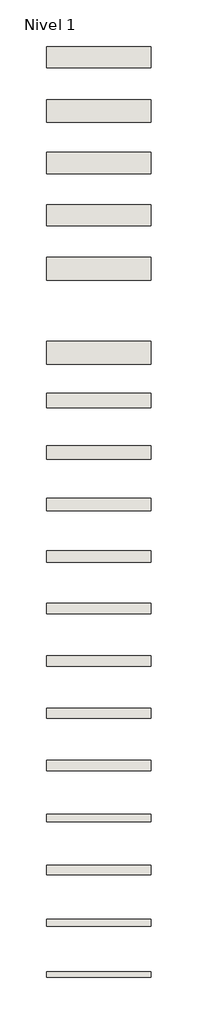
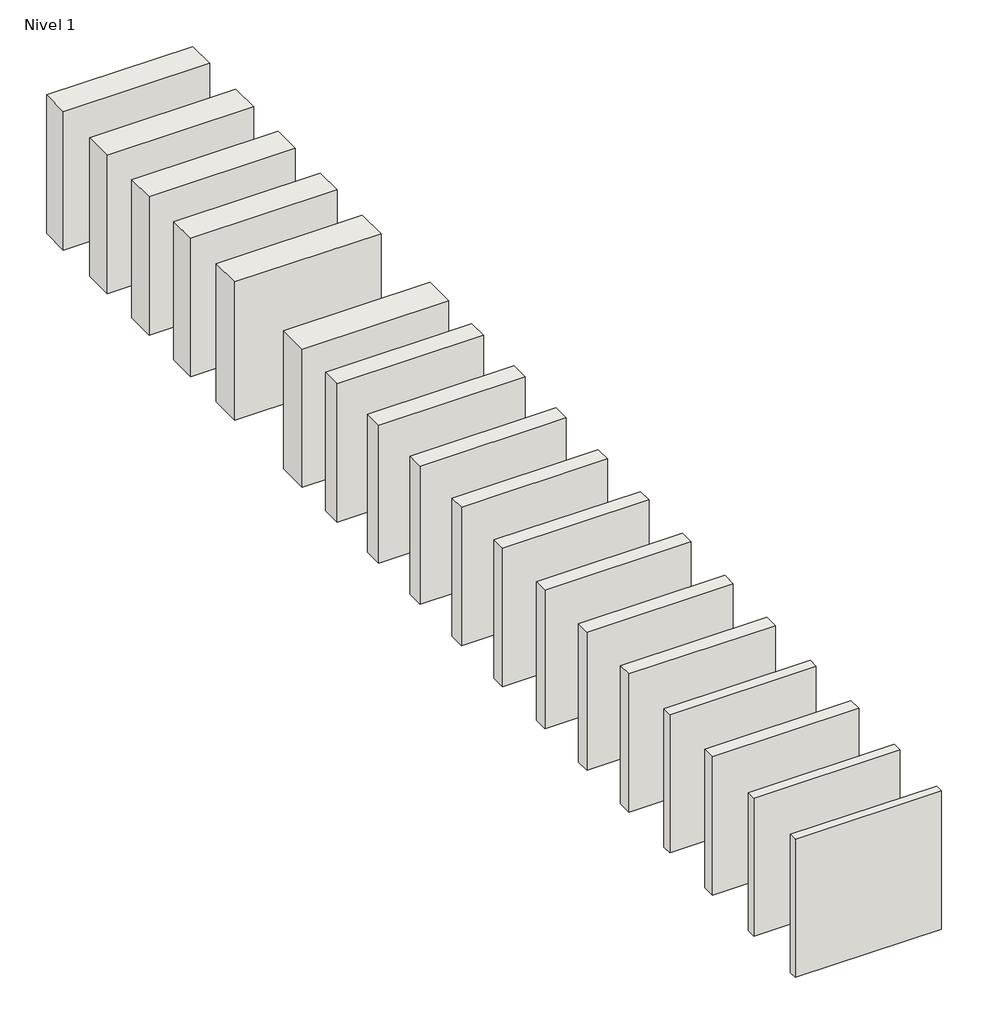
# One storey: 18 walls.
"""IFC4 building model written with IfcOpenShell, lengths in millimetres."""

from ifc_helpers import new_model, si_unit, origin, origin_with_axes, place, context, project, spatial, polyline, outline, extrude, element, save

model = new_model("IFC4")

# Units and contexts
model_context = context("Model", 3, world=origin())
ifc_project = project(units=[si_unit("LENGTHUNIT", "METRE", prefix="MILLI")], contexts=[model_context])

# Site, building, storey
site = spatial("IfcSite", under=ifc_project)
building = spatial("IfcBuilding", under=site)
storey = spatial("IfcBuildingStorey", under=building, Name="Nivel 1", Elevation=0.0)

# Walls
placement = place(None, origin())
element("IfcWall", 1, ObjectType="Megabrick 4. Yeso una cara", at=placement, inside=storey, context=model_context, shape_type="SweptSolid", body=[
    extrude(outline(polyline([(-1966.2152419, 155.6415145), (-2966.2152419, 155.6415145), (-2966.2152419, 210.6415145), (-1966.2152419, 210.6415145), (-1966.2152419, 155.6415145)])), origin_with_axes(), (0.0, 0.0, 1.0), 1000.0),
])
element("IfcWall", 2, ObjectType="Megabrick 5. Yeso una cara", at=placement, inside=storey, context=model_context, shape_type="SweptSolid", body=[
    extrude(outline(polyline([(-1966.2152419, 645.6415145), (-2966.2152419, 645.6415145), (-2966.2152419, 710.6415145), (-1966.2152419, 710.6415145), (-1966.2152419, 645.6415145)])), origin_with_axes(), (0.0, 0.0, 1.0), 1000.0),
])
element("IfcWall", 3, ObjectType="Megabrick 6. Yeso ambas caras", at=placement, inside=storey, context=model_context, shape_type="SweptSolid", body=[
    extrude(outline(polyline([(-1966.2152419, 1135.6415145), (-2966.2152419, 1135.6415145), (-2966.2152419, 1225.6415145), (-1966.2152419, 1225.6415145), (-1966.2152419, 1135.6415145)])), origin_with_axes(), (0.0, 0.0, 1.0), 1000.0),
])
element("IfcWall", 4, ObjectType="Megabrick 7 Liso", at=placement, inside=storey, context=model_context, shape_type="SweptSolid", body=[
    extrude(outline(polyline([(-1966.2152419, 1640.6415145), (-2966.2152419, 1640.6415145), (-2966.2152419, 1710.6415145), (-1966.2152419, 1710.6415145), (-1966.2152419, 1640.6415145)])), origin_with_axes(), (0.0, 0.0, 1.0), 1000.0),
])
element("IfcWall", 5, ObjectType="Megabrick 7 Plus. Yeso ambas caras", at=placement, inside=storey, context=model_context, shape_type="SweptSolid", body=[
    extrude(outline(polyline([(-1966.2152419, 2124.4235397), (-2966.2152419, 2124.4235397), (-2966.2152419, 2224.4235397), (-1966.2152419, 2224.4235397), (-1966.2152419, 2124.4235397)])), origin_with_axes(), (0.0, 0.0, 1.0), 1000.0),
])
element("IfcWall", 6, ObjectType="Megabrick 7 Tabique. Yeso ambas caras", at=placement, inside=storey, context=model_context, shape_type="SweptSolid", body=[
    extrude(outline(polyline([(-1966.2152419, 2623.6844873), (-2966.2152419, 2623.6844873), (-2966.2152419, 2721.6844873), (-1966.2152419, 2721.6844873), (-1966.2152419, 2623.6844873)])), origin_with_axes(), (0.0, 0.0, 1.0), 1000.0),
])
element("IfcWall", 7, ObjectType="Megabrick Triple Acústico 7. Yeso ambas caras", at=placement, inside=storey, context=model_context, shape_type="SweptSolid", body=[
    extrude(outline(polyline([(-1966.2152419, 3121.6844873), (-2966.2152419, 3121.6844873), (-2966.2152419, 3221.6844873), (-1966.2152419, 3221.6844873), (-1966.2152419, 3121.6844873)])), origin_with_axes(), (0.0, 0.0, 1.0), 1000.0),
])
element("IfcWall", 8, ObjectType="Megabrick 7. Yeso ambas caras", at=placement, inside=storey, context=model_context, shape_type="SweptSolid", body=[
    extrude(outline(polyline([(-1966.2152419, 3621.6844873), (-2966.2152419, 3621.6844873), (-2966.2152419, 3721.6844873), (-1966.2152419, 3721.6844873), (-1966.2152419, 3621.6844873)])), origin_with_axes(), (0.0, 0.0, 1.0), 1000.0),
])
element("IfcWall", 9, ObjectType="Megabrick 8. Yeso ambas caras", at=placement, inside=storey, context=model_context, shape_type="SweptSolid", body=[
    extrude(outline(polyline([(-1966.2152419, 4111.6844873), (-2966.2152419, 4111.6844873), (-2966.2152419, 4221.6844873), (-1966.2152419, 4221.6844873), (-1966.2152419, 4111.6844873)])), origin_with_axes(), (0.0, 0.0, 1.0), 1000.0),
])
element("IfcWall", 10, ObjectType="Megabrick 9. Yeso ambas caras", at=placement, inside=storey, context=model_context, shape_type="SweptSolid", body=[
    extrude(outline(polyline([(-1966.2152419, 4601.6844873), (-2966.2152419, 4601.6844873), (-2966.2152419, 4721.6844873), (-1966.2152419, 4721.6844873), (-1966.2152419, 4601.6844873)])), origin_with_axes(), (0.0, 0.0, 1.0), 1000.0),
])
element("IfcWall", 11, ObjectType="Megabrick 10. Yeso ambas caras", at=placement, inside=storey, context=model_context, shape_type="SweptSolid", body=[
    extrude(outline(polyline([(-1966.2152419, 5091.6844873), (-2966.2152419, 5091.6844873), (-2966.2152419, 5221.6844873), (-1966.2152419, 5221.6844873), (-1966.2152419, 5091.6844873)])), origin_with_axes(), (0.0, 0.0, 1.0), 1000.0),
])
element("IfcWall", 12, ObjectType="Megabrick Triplex 11 cm. Yeso ambas caras", at=placement, inside=storey, context=model_context, shape_type="SweptSolid", body=[
    extrude(outline(polyline([(-1966.2152419, 5581.6844873), (-2966.2152419, 5581.6844873), (-2966.2152419, 5721.6844873), (-1966.2152419, 5721.6844873), (-1966.2152419, 5581.6844873)])), origin_with_axes(), (0.0, 0.0, 1.0), 1000.0),
])
element("IfcWall", 13, ObjectType="Doble hoja Megabrick Triplex 11 cm + lana mineral + Megabrick 5. Yeso ambas caras", at=placement, inside=storey, context=model_context, shape_type="SweptSolid", body=[
    extrude(outline(polyline([(-1966.2152419, 5996.6844873), (-2966.2152419, 5996.6844873), (-2966.2152419, 6216.6844873), (-1966.2152419, 6216.6844873), (-1966.2152419, 5996.6844873)])), origin_with_axes(), (0.0, 0.0, 1.0), 1000.0),
])
element("IfcWall", 14, ObjectType="Doble hoja Megabrick Triplex 11 cm + lana mineral + Megabrick 5. Yeso ambas caras", at=placement, inside=storey, context=model_context, shape_type="SweptSolid", body=[
    extrude(outline(polyline([(-1966.2152419, 6796.6844873), (-2966.2152419, 6796.6844873), (-2966.2152419, 7016.6844873), (-1966.2152419, 7016.6844873), (-1966.2152419, 6796.6844873)])), origin_with_axes(), (0.0, 0.0, 1.0), 1000.0),
])
element("IfcWall", 15, ObjectType="Doble hoja Megabrick Triple Acústico 7 + lana mineral + Megabrick 6. Yeso ambas caras", at=placement, inside=storey, context=model_context, shape_type="SweptSolid", body=[
    extrude(outline(polyline([(-1966.2152419, 7316.6844873), (-2966.2152419, 7316.6844873), (-2966.2152419, 7516.6844873), (-1966.2152419, 7516.6844873), (-1966.2152419, 7316.6844873)])), origin_with_axes(), (0.0, 0.0, 1.0), 1000.0),
])
element("IfcWall", 16, ObjectType="Doble hoja Megabrick Triple Acústico 7 + lana mineral + Megabrick 7. Yeso ambas caras", at=placement, inside=storey, context=model_context, shape_type="SweptSolid", body=[
    extrude(outline(polyline([(-1966.2152419, 7811.6844873), (-2966.2152419, 7811.6844873), (-2966.2152419, 8016.6844873), (-1966.2152419, 8016.6844873), (-1966.2152419, 7811.6844873)])), origin_with_axes(), (0.0, 0.0, 1.0), 1000.0),
])
element("IfcWall", 17, ObjectType="Doble hoja Megabrick 7 + enfoscado mortero + lana mineral + Megabrick 7. Yeso ambas caras", at=placement, inside=storey, context=model_context, shape_type="SweptSolid", body=[
    extrude(outline(polyline([(-1966.2152419, 8306.6844873), (-2966.2152419, 8306.6844873), (-2966.2152419, 8516.6844873), (-1966.2152419, 8516.6844873), (-1966.2152419, 8306.6844873)])), origin_with_axes(), (0.0, 0.0, 1.0), 1000.0),
])
element("IfcWall", 18, ObjectType="Doble hoja Megabrick 7 + lana mineral + Megabrick 7. Yeso ambas caras", at=placement, inside=storey, context=model_context, shape_type="SweptSolid", body=[
    extrude(outline(polyline([(-1966.2152419, 8825.8319856), (-2966.2152419, 8825.8319856), (-2966.2152419, 9025.8319856), (-1966.2152419, 9025.8319856), (-1966.2152419, 8825.8319856)])), origin_with_axes(), (0.0, 0.0, 1.0), 1000.0),
])

save(model, "model.ifc")
